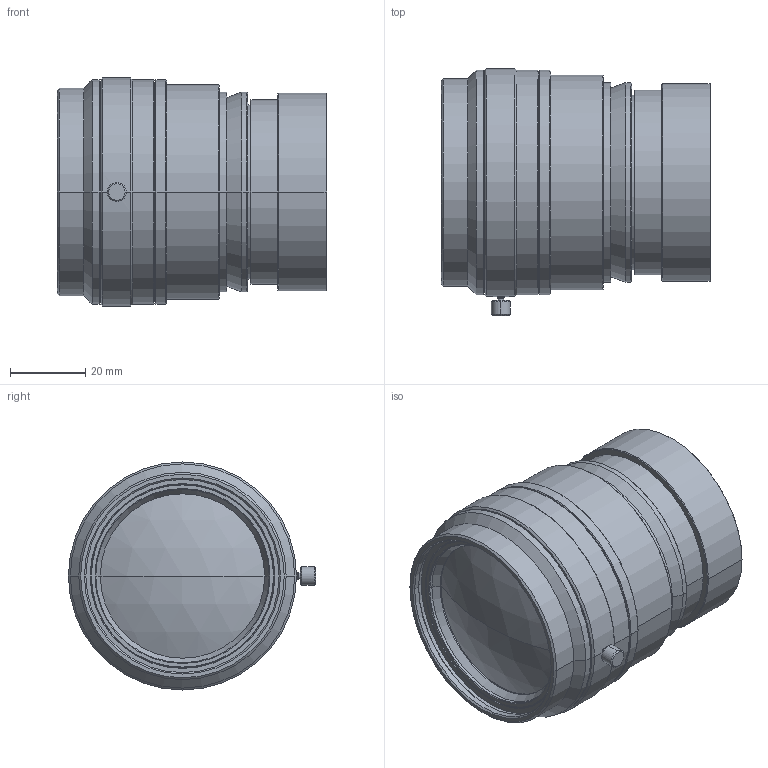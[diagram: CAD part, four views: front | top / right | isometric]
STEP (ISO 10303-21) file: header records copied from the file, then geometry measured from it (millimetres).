
FILE_DESCRIPTION (( 'STEP AP203' ), '1' );
FILE_NAME ('VS-L12035-05_V.STEP', '2019-02-22T02:07:42', ( '' ), ( '' ), 'SwSTEP 2.0', 'SolidWorks 2018', '' );
FILE_SCHEMA (( 'CONFIG_CONTROL_DESIGN' ));
Length unit declared in the file: millimetre
Products named in the file (1): VS-L12035-05_V
Bounding box: 71.5 x 65.55 x 60.5 mm (x, y, z)
Volume: 159060.4 mm3; surface area: 21346.3 mm2
Topology: 1 solids, 1 shells, 126 faces, 253 edges, 146 vertices
Faces by surface type: cone 62, cylinder 42, plane 18, sphere 4
Entity records: 3360 total; most frequent: DIRECTION 647, CARTESIAN_POINT 560, ORIENTED_EDGE 506, AXIS2_PLACEMENT_3D 271, EDGE_CURVE 253, VERTEX_POINT 146, CIRCLE 144, EDGE_LOOP 143
